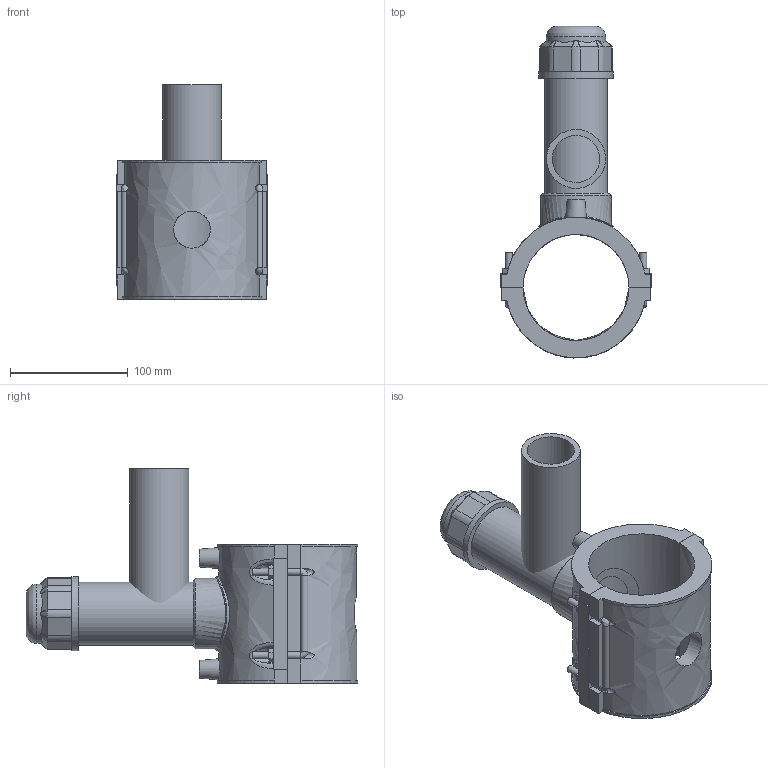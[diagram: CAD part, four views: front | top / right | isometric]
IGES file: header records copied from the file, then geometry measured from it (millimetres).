
Global section: file name: 4963P4090050; native system: Autodesk Inventor 2019; preprocessor: unknown; author: KIM; date: 20220317.112714; units: millimetre
Bounding box: 128 x 281.64 x 182 mm (x, y, z)
Volume: 869548.6 mm3; surface area: 198472.9 mm2
Topology: 3 solids, 3 shells, 218 faces, 555 edges, 360 vertices
Faces by surface type: bspline 218
